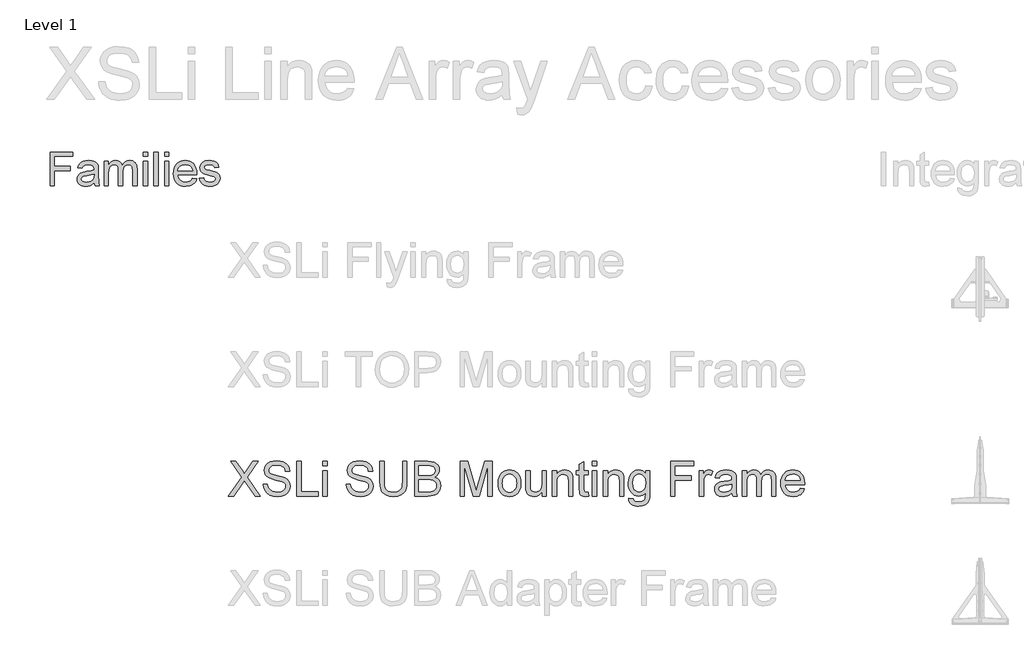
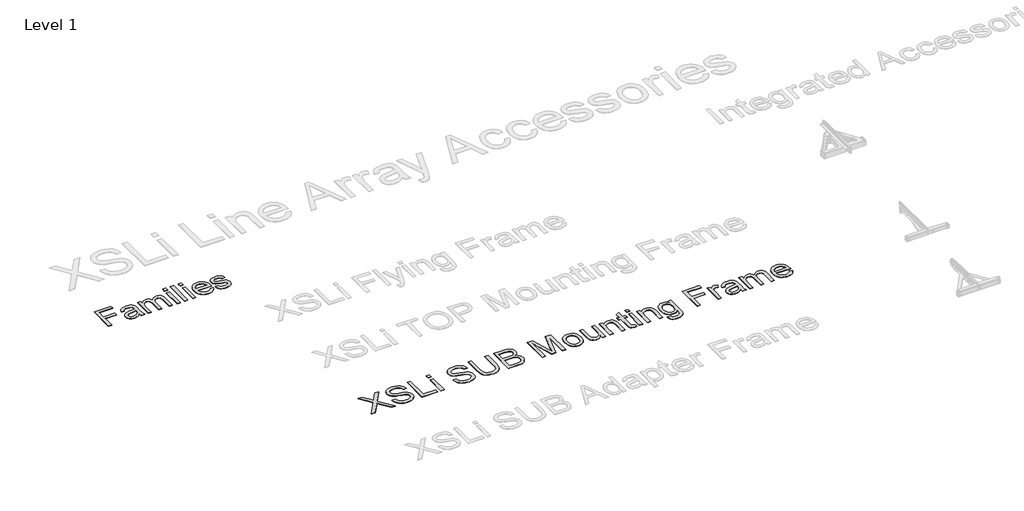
# One storey, part 29 of 52: 2 proxies.
"""IFC4 building model written with IfcOpenShell, lengths in millimetres."""

import ifcopenshell
import ifcopenshell.guid

model = None  # the IFC model being written
_history = None  # IfcOwnerHistory: only IFC2X3 demands one
_inside = {}  # id of a spatial element -> (the spatial element, [elements in it])
_under = {}  # id of a project, library or spatial element -> (it, [spatial elements below it])
_declared = {}  # id of a project -> (the project, [libraries it declares])
_typed = {}  # id of a type object -> (the type object, [elements of that type])
_made_of = {}  # id of a material, layer set ... -> (it, [elements and type objects made of it])


def new_model(schema):
    """Start an empty IFC model of exactly this schema.

    Asked for "IFC4X3", IfcOpenShell would pick the latest addendum, in which some entities
    have other attributes; the version numbers below select the first issue.
    IFC2X3 requires an IfcOwnerHistory on every rooted entity: one is made here for all.
    """
    global model, _history
    if schema == "IFC4X3":
        model = ifcopenshell.file(schema_version=(4, 3, 0, 0))
    else:
        model = ifcopenshell.file(schema=schema)
    _inside.clear()
    _under.clear()
    _declared.clear()
    _typed.clear()
    _made_of.clear()
    _history = None
    if model.schema == "IFC2X3":
        org = make("IfcOrganization", Name="unknown")
        user = make(
            "IfcPersonAndOrganization",
            ThePerson=make("IfcPerson", FamilyName="unknown"),
            TheOrganization=org,
        )
        app = make(
            "IfcApplication",
            ApplicationDeveloper=org,
            Version="unknown",
            ApplicationFullName="unknown",
            ApplicationIdentifier="unknown",
        )
        _history = make(
            "IfcOwnerHistory",
            OwningUser=user,
            OwningApplication=app,
            ChangeAction="ADDED",
            CreationDate=0,
        )
    return model


def make(cls, **values):
    """One entity of the class cls with the attributes given. An attribute that is None is left unset."""
    return model.create_entity(
        cls, **{name: value for name, value in values.items() if value is not None}
    )


def rooted(cls, **values):
    """An entity with a GlobalId (a new one), such as an element, a storey or a relation."""
    return make(cls, GlobalId=ifcopenshell.guid.new(), OwnerHistory=_history, **values)


def si_unit(unit_type, name, prefix=None):
    """IfcSIUnit, for example si_unit("LENGTHUNIT", "METRE", prefix="MILLI")."""
    return make("IfcSIUnit", UnitType=unit_type, Prefix=prefix, Name=name)


def assignment(units):
    """IfcUnitAssignment: the units of a project."""
    return None if units is None else make("IfcUnitAssignment", Units=units)


def point(xyz):
    """IfcCartesianPoint."""
    return None if xyz is None else make("IfcCartesianPoint", Coordinates=xyz)


def direction(xyz):
    """IfcDirection."""
    return None if xyz is None else make("IfcDirection", DirectionRatios=xyz)


def frame(location, z_axis=None, x_axis=None):
    """IfcAxis2Placement3D, a coordinate frame: its origin and axes. An axis left out is left unset."""
    return make(
        "IfcAxis2Placement3D",
        Location=point(location),
        Axis=direction(z_axis),
        RefDirection=direction(x_axis),
    )


def origin():
    """The frame at (0, 0, 0) with its axes left unset."""
    return frame((0.0, 0.0, 0.0))


def origin_with_axes():
    """The frame at (0, 0, 0) with the z axis (0, 0, 1) and the x axis (1, 0, 0) written out."""
    return frame((0.0, 0.0, 0.0), z_axis=(0.0, 0.0, 1.0), x_axis=(1.0, 0.0, 0.0))


def place(relative_to, where):
    """IfcLocalPlacement: puts the frame where relative to a parent placement (None: the world)."""
    return make(
        "IfcLocalPlacement", PlacementRelTo=relative_to, RelativePlacement=where
    )


def context(
    kind, dimensions, precision=None, world=None, true_north=None, identifier=None
):
    """IfcGeometricRepresentationContext, for example the 3D "Model" context."""
    return make(
        "IfcGeometricRepresentationContext",
        ContextIdentifier=identifier,
        ContextType=kind,
        CoordinateSpaceDimension=dimensions,
        Precision=precision,
        WorldCoordinateSystem=world,
        TrueNorth=true_north,
    )


def project(units=None, contexts=None):
    """IfcProject with its units and contexts."""
    return rooted(
        "IfcProject",
        Name="project",
        RepresentationContexts=contexts,
        UnitsInContext=assignment(units),
    )


def spatial(cls, under=None, at=None, **own):
    """A site, building, storey or space (cls), placed at a placement, below another one or the project."""
    s = rooted(cls, ObjectPlacement=at, **own)
    if under is not None:
        _under.setdefault(under.id(), (under, []))[1].append(s)
    return s


def polyline(points):
    """IfcPolyline through the points."""
    return make("IfcPolyline", Points=[point(p) for p in points])


def outline(outer, holes=None, kind="AREA"):
    """IfcArbitraryClosedProfileDef: a profile drawn as a closed curve; with holes, ...WithVoids."""
    if holes is None:
        return make("IfcArbitraryClosedProfileDef", ProfileType=kind, OuterCurve=outer)
    return make(
        "IfcArbitraryProfileDefWithVoids",
        ProfileType=kind,
        OuterCurve=outer,
        InnerCurves=holes,
    )


def extrude(swept, where, along, depth):
    """IfcExtrudedAreaSolid: the profile swept, set in the frame where, extruded along a direction by depth."""
    return make(
        "IfcExtrudedAreaSolid",
        SweptArea=swept,
        Position=where,
        ExtrudedDirection=direction(along),
        Depth=depth,
    )


def shape(context_of_items, identifier, shape_type, items):
    """IfcShapeRepresentation: the items that make up one representation, for example the "Body"."""
    return make(
        "IfcShapeRepresentation",
        ContextOfItems=context_of_items,
        RepresentationIdentifier=identifier,
        RepresentationType=shape_type,
        Items=items,
    )


def made_of(thing, what):
    """Note that an element or type object is made of a material, layer set ...; save() writes the relation."""
    if what is not None:
        _made_of.setdefault(what.id(), (what, []))[1].append(thing)
    return thing


def element(
    cls,
    number,
    at=None,
    inside=None,
    cuts=None,
    type_object=None,
    material=None,
    context=None,
    identifier="Body",
    shape_type=None,
    held_by="IfcProductDefinitionShape",
    body=None,
    shapes=None,
    **own,
):
    """One element of the class cls, such as IfcWall. Its Tag is "e" and its number.

    at: its placement. inside: the storey or other place that contains it. cuts: it is an
    opening in that element (IfcRelVoidsElement). A single representation is given by context,
    identifier, shape_type and body (its items); several are given by shapes. held_by: the class
    of the entity that holds the representations. save() writes the other relations.
    """
    e = rooted(cls, Tag="e%d" % number, ObjectPlacement=at, **own)
    if body is not None:
        shapes = [shape(context, identifier, shape_type, body)]
    if shapes is not None:
        e.Representation = make(held_by, Representations=shapes)
    if inside is not None:
        _inside.setdefault(inside.id(), (inside, []))[1].append(e)
    if cuts is not None:
        rooted(
            "IfcRelVoidsElement", RelatingBuildingElement=cuts, RelatedOpeningElement=e
        )
    if type_object is not None:
        _typed.setdefault(type_object.id(), (type_object, []))[1].append(e)
    return made_of(e, material)


def aggregate(whole, parts):
    """IfcRelAggregates: a whole, such as a stair, and the parts it consists of."""
    return rooted("IfcRelAggregates", RelatingObject=whole, RelatedObjects=parts)


def save(model, path):
    """Write the relations noted so far, then the file.

    IfcRelAggregates (storeys below a building ...), IfcRelContainedInSpatialStructure (elements
    in a storey), IfcRelDefinesByType, IfcRelAssociatesMaterial and IfcRelDeclares: one each for
    every whole, place, type object, material and project.
    """
    for whole, parts in _under.values():
        aggregate(whole, parts)
    for where, things in _inside.values():
        rooted(
            "IfcRelContainedInSpatialStructure",
            RelatedElements=things,
            RelatingStructure=where,
        )
    for kind, things in _typed.values():
        rooted("IfcRelDefinesByType", RelatedObjects=things, RelatingType=kind)
    for what, things in _made_of.values():
        rooted("IfcRelAssociatesMaterial", RelatedObjects=things, RelatingMaterial=what)
    for by, libraries in _declared.values():
        rooted("IfcRelDeclares", RelatingContext=by, RelatedDefinitions=libraries)
    model.write(path)


model = new_model("IFC4")

# Units and contexts
model_context = context("Model", 3, world=origin())
ifc_project = project(units=[si_unit("LENGTHUNIT", "METRE", prefix="MILLI")], contexts=[model_context])

# Site, building, storey
site = spatial("IfcSite", under=ifc_project)
building = spatial("IfcBuilding", under=site)
storey = spatial("IfcBuildingStorey", under=building, Name="Level 1", Elevation=0.0)

# Proxies
placement = place(None, origin())
element("IfcBuildingElementProxy", 1, Name="400mm Arial", ObjectType="400mm Arial", at=placement, inside=storey, context=model_context, shape_type="SweptSolid", body=[
    extrude(outline(polyline([(5943.279109, -61267.5695164), (5943.279109, -60875.8119407), (6206.4912302, -60875.8119407), (6206.4912302, -60924.7816376), (5992.2488059, -60924.7816376), (5992.2488059, -61041.0846679), (6175.8851696, -61041.0846679), (6175.8851696, -61090.0543649), (5992.2488059, -61090.0543649), (5992.2488059, -61267.5695164), (5943.279109, -61267.5695164)])), origin_with_axes(), (0.0, 0.0, 1.0), 5.0),
    extrude(outline(polyline([(6451.339715, -61230.8422437), (6427.9428164, -61250.90356), (6403.8524991, -61264.0306907), (6378.5188107, -61271.2757191), (6351.3917984, -61273.6907285), (6329.5879691, -61272.2381362), (6310.4681478, -61267.8803592), (6294.0323346, -61260.6173976), (6280.2805294, -61250.4492513), (6269.4219534, -61238.0215169), (6261.6658277, -61223.979791), (6257.0121523, -61208.3240737), (6255.4609271, -61191.0543649), (6257.8042037, -61170.7539388), (6264.8340332, -61152.3185695), (6275.6776648, -61136.5373195), (6289.4623476, -61124.1992513), (6323.7506999, -61108.1310695), (6366.120965, -61100.7664861), (6416.1905673, -61093.019327), (6451.0527832, -61083.9331528), (6451.339715, -61073.0297437), (6447.9682662, -61051.1751035), (6437.8539196, -61036.8763346), (6415.2341279, -61026.2598573), (6383.7194499, -61022.7210316), (6354.5480484, -61025.0762636), (6334.1758893, -61032.1419596), (6320.2836071, -61045.2093128), (6310.5518362, -61065.5695164), (6261.5821393, -61059.4483043), (6270.0824944, -61032.6680013), (6282.7672718, -61011.6263346), (6300.8200654, -60995.5342418), (6325.4244688, -60983.6026604), (6355.5164432, -60976.214166), (6390.0319499, -60973.7513346), (6423.1367084, -60975.9272342), (6449.3790143, -60982.4549331), (6469.1653542, -60992.2703924), (6482.902215, -61004.3095732), (6492.0123003, -61019.1941613), (6497.9183135, -61037.5458422), (6500.309412, -61080.394327), (6500.309412, -61141.3195164), (6502.7961544, -61226.3948005), (6512.5518362, -61267.5695164), (6463.5821393, -61267.5695164), (6455.7393362, -61250.5448952), (6451.339715, -61230.8422437)]), holes=[polyline([(6451.339715, -61132.9028498), (6418.4381999, -61141.0564956), (6372.3378211, -61147.9189482), (6330.2066658, -61155.8573952), (6319.2434792, -61161.2851888), (6311.1256999, -61168.769327), (6306.1043931, -61177.7359464), (6304.4306241, -61187.6111831), (6308.0770493, -61202.1729729), (6319.0163249, -61214.1045543), (6337.009341, -61222.0669123), (6361.8169878, -61224.7210316), (6388.1190711, -61221.7919359), (6411.3605484, -61213.004649), (6430.2024044, -61200.0568507), (6443.3056241, -61184.646221), (6449.1159934, -61168.769327), (6451.0527832, -61146.771221), (6451.339715, -61132.9028498)])]), origin_with_axes(), (0.0, 0.0, 1.0), 5.0),
    extrude(outline(polyline([(6567.6427453, -61267.5695164), (6567.6427453, -60979.8725467), (6616.6124423, -60979.8725467), (6616.6124423, -61027.2162967), (6631.341609, -61005.469256), (6650.279109, -60988.4326793), (6672.7793457, -60977.4216708), (6698.1967226, -60973.7513346), (6725.4313343, -60977.4934037), (6747.2620635, -60988.7196111), (6763.5693552, -61006.6887162), (6774.2336544, -61030.6594785), (6792.0832046, -61005.7621656), (6812.4434082, -60987.9783706), (6835.3142652, -60977.3080936), (6860.6957756, -60973.7513346), (6880.2997943, -60975.2308268), (6897.5067368, -60979.6693034), (6912.316603, -60987.0667643), (6924.7293931, -60997.4232096), (6934.5418635, -61010.8581942), (6941.5507709, -61027.4912731), (6945.7561154, -61047.3224461), (6947.1578968, -61070.3517134), (6947.1578968, -61267.5695164), (6898.1881999, -61267.5695164), (6898.1881999, -61091.3933801), (6893.6451128, -61050.505596), (6887.2608798, -61039.2315666), (6877.1943552, -61030.3725467), (6864.2465569, -61024.6339104), (6849.2185029, -61022.7210316), (6822.6892652, -61027.6227835), (6801.0617794, -61042.3280392), (6792.6720126, -61053.6080463), (6786.679322, -61067.84106), (6781.8851696, -61105.1661073), (6781.8851696, -61267.5695164), (6732.9154726, -61267.5695164), (6732.9154726, -61085.9416755), (6730.0820209, -61058.2527551), (6721.5816658, -61038.5022816), (6706.6253448, -61026.6663441), (6684.4239953, -61022.7210316), (6665.5582283, -61025.3512399), (6648.1749423, -61033.2418649), (6633.8283514, -61046.2016187), (6624.0726696, -61064.0392134), (6618.4774991, -61088.7870827), (6616.6124423, -61122.4776604), (6616.6124423, -61267.5695164), (6567.6427453, -61267.5695164)])), origin_with_axes(), (0.0, 0.0, 1.0), 5.0),
    extrude(outline(polyline([(7020.6124423, -60924.7816376), (7020.6124423, -60875.8119407), (7069.5821393, -60875.8119407), (7069.5821393, -60924.7816376), (7020.6124423, -60924.7816376)])), origin_with_axes(), (0.0, 0.0, 1.0), 5.0),
    extrude(outline(polyline([(7020.6124423, -61267.5695164), (7020.6124423, -60979.8725467), (7069.5821393, -60979.8725467), (7069.5821393, -61267.5695164), (7020.6124423, -61267.5695164)])), origin_with_axes(), (0.0, 0.0, 1.0), 5.0),
    extrude(outline(polyline([(7143.0366847, -61267.5695164), (7143.0366847, -60875.8119407), (7192.0063817, -60875.8119407), (7192.0063817, -61267.5695164), (7143.0366847, -61267.5695164)])), origin_with_axes(), (0.0, 0.0, 1.0), 5.0),
    extrude(outline(polyline([(7265.4609271, -60924.7816376), (7265.4609271, -60875.8119407), (7314.4306241, -60875.8119407), (7314.4306241, -60924.7816376), (7265.4609271, -60924.7816376)])), origin_with_axes(), (0.0, 0.0, 1.0), 5.0),
    extrude(outline(polyline([(7265.4609271, -61267.5695164), (7265.4609271, -60979.8725467), (7314.4306241, -60979.8725467), (7314.4306241, -61267.5695164), (7265.4609271, -61267.5695164)])), origin_with_axes(), (0.0, 0.0, 1.0), 5.0),
    extrude(outline(polyline([(7589.3113059, -61181.8725467), (7637.3245635, -61187.9937589), (7629.9629691, -61207.2241684), (7620.024966, -61224.1710789), (7607.5105543, -61238.8344904), (7592.419734, -61251.2144028), (7574.9079264, -61261.0477953), (7555.1305531, -61268.0716471), (7508.779109, -61273.6907285), (7478.394225, -61271.2667525), (7451.3210124, -61263.9948242), (7427.5594712, -61251.8749437), (7407.1096014, -61234.9071111), (7390.6648216, -61213.5635683), (7378.9185503, -61188.3165571), (7371.8707875, -61159.1660777), (7369.5215332, -61126.1121301), (7371.8946985, -61091.937355), (7379.0141942, -61061.8154918), (7390.8800204, -61035.7465406), (7407.4921771, -61013.7305013), (7427.8882472, -60996.2396159), (7451.1058135, -60983.7461263), (7477.144876, -60976.2500325), (7506.0054347, -60973.7513346), (7533.9364539, -60976.2440548), (7559.1954205, -60983.7222153), (7581.7823346, -60996.1858161), (7601.6971961, -61013.6348573), (7617.9536769, -61035.6030747), (7629.5654489, -61061.6242039), (7636.5325121, -61091.6982451), (7638.8548665, -61125.8251982), (7638.5679347, -61139.0240619), (7418.4912302, -61139.0240619), (7421.3276708, -61158.5653142), (7426.9676743, -61175.6796017), (7435.4112408, -61190.3669241), (7446.6583703, -61202.6272816), (7475.0765758, -61219.1975941), (7509.7355484, -61224.7210316), (7535.7985218, -61222.1625562), (7557.7488059, -61214.4871301), (7575.5864006, -61201.2165335), (7589.3113059, -61181.8725467)]), holes=[polyline([(7418.4912302, -61090.0543649), (7589.8851696, -61090.0543649), (7583.2618268, -61064.1826793), (7570.278162, -61045.675577), (7556.923877, -61035.6329634), (7541.7284461, -61028.4596679), (7505.8141468, -61022.7210316), (7472.8050323, -61027.2999852), (7445.5106431, -61041.036846), (7426.5372766, -61062.4491329), (7418.4912302, -61090.0543649)])]), origin_with_axes(), (0.0, 0.0, 1.0), 5.0),
    extrude(outline(polyline([(7669.4609271, -61181.8725467), (7718.4306241, -61175.7513346), (7726.1538722, -61196.6973573), (7741.0982378, -61212.0960316), (7763.3593646, -61221.5647816), (7793.0328968, -61224.7210316), (7822.3477643, -61221.8278024), (7842.9590332, -61213.1481149), (7855.1536355, -61200.5709369), (7859.2185029, -61185.9852361), (7855.1297245, -61173.503702), (7842.8633893, -61163.9871301), (7792.4590332, -61150.0231149), (7718.7175559, -61126.0643081), (7700.0550323, -61114.0251272), (7686.5333703, -61098.0884558), (7678.319947, -61079.2705107), (7675.5821393, -61058.5875089), (7677.7819499, -61039.6141424), (7684.3813817, -61022.099346), (7694.7826601, -61006.7365382), (7708.3880105, -60994.2191376), (7739.5201128, -60979.7290808), (7781.6512681, -60973.7513346), (7813.5246109, -60976.1543886), (7841.2374423, -60983.3635505), (7863.5224802, -60994.6734464), (7879.1124423, -61009.378702), (7889.4419878, -61028.5672674), (7895.9457756, -61053.3270922), (7846.9760787, -61059.4483043), (7840.7950891, -61044.0376746), (7828.5646203, -61032.4288914), (7810.1651175, -61025.1479965), (7785.4770256, -61022.7210316), (7757.3577075, -61025.0403971), (7738.6114953, -61031.9984937), (7728.066751, -61042.0411073), (7724.5518362, -61053.614024), (7730.3861165, -61067.864971), (7748.654109, -61078.6727361), (7790.8330862, -61089.0979255), (7862.7095067, -61112.1481149), (7881.6948287, -61123.1710789), (7896.0892415, -61138.2589104), (7905.1634603, -61157.4594312), (7908.1881999, -61180.8204634), (7904.6374186, -61204.9705581), (7893.9850749, -61227.6859937), (7876.6376554, -61247.1854018), (7853.0016468, -61261.6874142), (7824.4519309, -61270.6899), (7792.3633893, -61273.6907285), (7766.0075062, -61272.244114), (7742.9872056, -61267.9042702), (7723.3024873, -61260.6711973), (7706.9533514, -61250.5448952), (7693.5990664, -61237.5731859), (7682.8989006, -61221.8038914), (7674.8528542, -61203.2370117), (7669.4609271, -61181.8725467)])), origin_with_axes(), (0.0, 0.0, 1.0), 5.0),
])
element("IfcBuildingElementProxy", 2, Name="400mm Arial", ObjectType="400mm Arial", at=placement, inside=storey, context=model_context, shape_type="SweptSolid", body=[
    extrude(outline(polyline([(8004.9788586, -64856.6859046), (8159.7836021, -64637.722541), (8030.0929361, -64454.860664), (8090.2293796, -64454.860664), (8163.3152693, -64557.8676226), (8187.9388375, -64597.9912855), (8216.7807859, -64556.9847058), (8289.0818607, -64454.860664), (8350.2974247, -64454.860664), (8220.5086568, -64638.4092541), (8375.4115022, -64856.6859046), (8315.1769569, -64856.6859046), (8211.8756926, -64711.2008382), (8190.3913841, -64681.0835655), (8166.9450383, -64714.1438942), (8066.1944226, -64856.6859046), (8004.9788586, -64856.6859046)])), origin_with_axes(), (0.0, 0.0, 1.0), 5.0),
    extrude(outline(polyline([(8406.8040992, -64718.5584781), (8457.0322542, -64718.5584781), (8462.7957388, -64746.4316706), (8473.219062, -64768.8356841), (8489.4794462, -64786.6166472), (8512.7541138, -64800.6206885), (8541.2036547, -64809.7073738), (8572.9886591, -64812.7362689), (8600.9722162, -64810.4431378), (8625.4731571, -64803.5637445), (8645.3265221, -64792.6744374), (8659.3673516, -64778.3515651), (8667.7182729, -64761.9072399), (8670.5019133, -64744.6535743), (8668.4172487, -64727.8413671), (8662.1632547, -64713.3100283), (8649.4590632, -64700.9124051), (8628.0238056, -64690.5013446), (8554.8888649, -64671.3224299), (8506.8802646, -64658.6305011), (8476.162118, -64646.5517089), (8451.158405, -64629.6536626), (8433.4387556, -64609.1748982), (8422.8805423, -64585.5568741), (8419.3611379, -64559.2410487), (8423.7144082, -64529.8227518), (8436.774219, -64502.3910177), (8458.1972139, -64479.1408756), (8487.6400362, -64462.2673548), (8522.9812332, -64452.0034471), (8562.0993521, -64448.5821446), (8604.4793579, -64452.1628627), (8641.561863, -64462.9050169), (8672.0224922, -64480.5878782), (8694.5368703, -64504.9907172), (8708.7861663, -64534.592955), (8714.451549, -64567.8740129), (8664.2233939, -64567.8740129), (8655.0018186, -64537.903893), (8646.6386345, -64526.04583), (8635.773853, -64516.2724317), (8605.7301567, -64503.1758327), (8564.0613894, -64498.8102996), (8521.4116034, -64503.1267817), (8505.1082996, -64508.5223843), (8492.152722, -64516.076228), (8475.2301503, -64535.1325153), (8469.589293, -64557.7695207), (8473.586944, -64577.0710628), (8485.5798971, -64592.595683), (8513.9313362, -64606.4770969), (8567.5930565, -64620.6528165), (8622.9715595, -64634.1172975), (8656.4733465, -64645.8649959), (8685.1068285, -64664.0874173), (8705.0828208, -64686.57727), (8716.8182565, -64713.0892991), (8720.7300684, -64743.37825), (8716.2296453, -64774.3416513), (8702.7283761, -64803.4656426), (8680.7780837, -64828.5306692), (8650.9305912, -64847.3171764), (8615.0375712, -64859.0526121), (8574.9506964, -64862.9644239), (8525.7403482, -64858.7460437), (8485.2365405, -64846.0909031), (8452.9732895, -64824.9499511), (8428.4846114, -64795.2741368), (8412.7637875, -64759.1235994), (8406.8040992, -64718.5584781)])), origin_with_axes(), (0.0, 0.0, 1.0), 5.0),
    extrude(outline(polyline([(8796.072301, -64856.6859046), (8796.072301, -64454.860664), (8846.3004561, -64454.860664), (8846.3004561, -64806.4577495), (9047.2130764, -64806.4577495), (9047.2130764, -64856.6859046), (8796.072301, -64856.6859046)])), origin_with_axes(), (0.0, 0.0, 1.0), 5.0),
    extrude(outline(polyline([(9097.4412314, -64856.6859046), (9097.4412314, -64561.5954935), (9147.6693865, -64561.5954935), (9147.6693865, -64856.6859046), (9097.4412314, -64856.6859046)])), origin_with_axes(), (0.0, 0.0, 1.0), 5.0),
    extrude(outline(polyline([(9097.4412314, -64505.088819), (9097.4412314, -64454.860664), (9147.6693865, -64454.860664), (9147.6693865, -64505.088819), (9097.4412314, -64505.088819)])), origin_with_axes(), (0.0, 0.0, 1.0), 5.0),
    extrude(outline(polyline([(9367.417565, -64718.5584781), (9417.64572, -64718.5584781), (9423.4092046, -64746.4316706), (9433.8325278, -64768.8356841), (9450.092912, -64786.6166472), (9473.3675796, -64800.6206885), (9501.8171205, -64809.7073738), (9533.6021249, -64812.7362689), (9561.585682, -64810.4431378), (9586.0866229, -64803.5637445), (9605.9399879, -64792.6744374), (9619.9808174, -64778.3515651), (9628.3317387, -64761.9072399), (9631.1153791, -64744.6535743), (9629.0307145, -64727.8413671), (9622.7767205, -64713.3100283), (9610.072529, -64700.9124051), (9588.6372714, -64690.5013446), (9515.5023308, -64671.3224299), (9467.4937304, -64658.6305011), (9436.7755838, -64646.5517089), (9411.7718708, -64629.6536626), (9394.0522214, -64609.1748982), (9383.4940081, -64585.5568741), (9379.9746037, -64559.2410487), (9384.327874, -64529.8227518), (9397.3876848, -64502.3910177), (9418.8106797, -64479.1408756), (9448.253502, -64462.2673548), (9483.594699, -64452.0034471), (9522.7128179, -64448.5821446), (9565.0928237, -64452.1628627), (9602.1753288, -64462.9050169), (9632.635958, -64480.5878782), (9655.1503361, -64504.9907172), (9669.3996321, -64534.592955), (9675.0650148, -64567.8740129), (9624.8368597, -64567.8740129), (9615.6152844, -64537.903893), (9607.2521003, -64526.04583), (9596.3873188, -64516.2724317), (9566.3436225, -64503.1758327), (9524.6748552, -64498.8102996), (9482.0250692, -64503.1267817), (9465.7217654, -64508.5223843), (9452.7661878, -64516.076228), (9435.8436161, -64535.1325153), (9430.2027588, -64557.7695207), (9434.2004098, -64577.0710628), (9446.1933629, -64592.595683), (9474.544802, -64606.4770969), (9528.2065223, -64620.6528165), (9583.5850253, -64634.1172975), (9617.0868124, -64645.8649959), (9645.7202943, -64664.0874173), (9665.6962866, -64686.57727), (9677.4317223, -64713.0892991), (9681.3435342, -64743.37825), (9676.8431111, -64774.3416513), (9663.3418419, -64803.4656426), (9641.3915495, -64828.5306692), (9611.544057, -64847.3171764), (9575.651037, -64859.0526121), (9535.5641622, -64862.9644239), (9486.353814, -64858.7460437), (9445.8500063, -64846.0909031), (9413.5867554, -64824.9499511), (9389.0980772, -64795.2741368), (9373.3772533, -64759.1235994), (9367.417565, -64718.5584781)])), origin_with_axes(), (0.0, 0.0, 1.0), 5.0),
    extrude(outline(polyline([(10020.3835809, -64454.860664), (10070.611736, -64454.860664), (10070.611736, -64686.6753719), (10067.2026962, -64740.9624916), (10056.9755767, -64782.766149), (10048.7902023, -64799.7193776), (10037.8702384, -64815.0171372), (10007.8265422, -64840.6462496), (9988.6844157, -64850.4104509), (9966.7709115, -64857.3848803), (9914.6297701, -64862.9644239), (9863.6290628, -64858.1083816), (9822.855475, -64843.5402546), (9806.3007852, -64832.7398524), (9792.2967439, -64819.762815), (9780.8433511, -64804.6091425), (9771.9406069, -64787.2788348), (9760.4994768, -64743.7093438), (9756.6857668, -64686.6753719), (9756.6857668, -64454.860664), (9806.9139219, -64454.860664), (9806.9139219, -64684.9095383), (9809.390994, -64730.0486591), (9816.8222103, -64761.4780442), (9830.2866913, -64783.2443956), (9850.8635576, -64799.3944152), (9877.6944177, -64809.4008054), (9909.9208805, -64812.7362689), (9937.6040007, -64811.0869313), (9961.0074269, -64806.1389184), (9980.1311593, -64797.8922304), (9994.9751978, -64786.3468671), (10006.0913654, -64770.1110084), (10014.0314851, -64747.792834), (10018.795557, -64719.392344), (10020.3835809, -64684.9095383), (10020.3835809, -64454.860664)])), origin_with_axes(), (0.0, 0.0, 1.0), 5.0),
    extrude(outline(polyline([(10158.5110074, -64856.6859046), (10158.5110074, -64454.860664), (10311.844223, -64454.860664), (10354.0157624, -64457.8159827), (10386.9412009, -64466.6819387), (10412.1779058, -64481.6792614), (10431.2832441, -64503.0286799), (10443.3129853, -64528.1427574), (10447.3228991, -64554.4340573), (10443.9506474, -64578.6284299), (10433.8338926, -64601.3757999), (10416.8990581, -64621.2782158), (10393.0725675, -64636.9377261), (10421.5343712, -64651.8001587), (10442.5649586, -64674.4126387), (10455.551193, -64703.2791126), (10459.8799378, -64736.9035269), (10456.9246191, -64764.9238722), (10448.0586631, -64790.9086038), (10434.827174, -64813.006049), (10418.7752562, -64829.364535), (10399.118095, -64841.2103353), (10375.0708752, -64849.769723), (10345.8487821, -64854.9568592), (10310.6670006, -64856.6859046), (10158.5110074, -64856.6859046)]), holes=[polyline([(10208.7391625, -64806.4577495), (10311.7461211, -64806.4577495), (10349.02483, -64804.4957122), (10380.5645797, -64793.5573542), (10392.1405998, -64784.1273124), (10401.460277, -64771.2391798), (10407.6039063, -64755.469305), (10409.6517828, -64737.3940363), (10407.2482871, -64716.4002371), (10400.0378, -64698.3494938), (10387.443973, -64684.235088), (10368.8904577, -64675.0503008), (10342.6114205, -64670.0103175), (10306.8410278, -64668.330323), (10208.7391625, -64668.330323), (10208.7391625, -64806.4577495)]), polyline([(10208.7391625, -64618.102168), (10300.4644066, -64618.102168), (10354.0280251, -64613.7856859), (10372.7777441, -64606.3422068), (10386.2544879, -64595.1953824), (10394.38468, -64580.5168908), (10397.094744, -64562.4784103), (10394.568621, -64544.9672273), (10386.9902519, -64529.7123872), (10374.7029932, -64517.8052733), (10358.0502016, -64510.3372688), (10332.4946656, -64506.4009315), (10293.4991742, -64505.088819), (10208.7391625, -64505.088819), (10208.7391625, -64618.102168)])]), origin_with_axes(), (0.0, 0.0, 1.0), 5.0),
    extrude(outline(polyline([(10685.9066357, -64856.6859046), (10685.9066357, -64454.860664), (10772.0400735, -64454.860664), (10854.4456404, -64738.0807493), (10871.1229575, -64797.2361741), (10889.0755989, -64733.175656), (10969.911536, -64454.860664), (11056.3392794, -64454.860664), (11056.3392794, -64856.6859046), (11006.1111243, -64856.6859046), (11006.1111243, -64505.088819), (10905.1643048, -64856.6859046), (10837.1797121, -64856.6859046), (10736.1347907, -64505.088819), (10736.1347907, -64856.6859046), (10685.9066357, -64856.6859046)])), origin_with_axes(), (0.0, 0.0, 1.0), 5.0),
    extrude(outline(polyline([(11125.4029926, -64709.140699), (11128.119188, -64670.9238911), (11136.2677742, -64637.9923212), (11149.8487512, -64610.3459892), (11168.8621189, -64587.9848953), (11188.0042454, -64573.6926798), (11209.1329347, -64563.4839544), (11232.2481867, -64557.3587192), (11257.3500015, -64555.3169741), (11285.0607128, -64557.8032433), (11310.1165424, -64565.2620507), (11332.5174902, -64577.6933965), (11352.2635563, -64595.0972805), (11368.3798533, -64616.8850917), (11379.8914941, -64642.4682188), (11386.7984786, -64671.8466618), (11389.1008067, -64705.0204207), (11385.0295793, -64755.7636105), (11372.8158971, -64794.39122), (11352.8153793, -64823.3190076), (11325.3836452, -64844.9627316), (11292.8015631, -64858.4640009), (11257.3500015, -64862.9644239), (11229.23462, -64860.4873518), (11203.9457985, -64853.0561355), (11181.4835371, -64840.670775), (11161.8478356, -64823.3312703), (11145.9032168, -64801.331927), (11134.5142033, -64774.9670507), (11127.6807953, -64744.2366414), (11125.4029926, -64709.140699)]), holes=[polyline([(11175.6311477, -64709.0425972), (11177.0842815, -64733.4055823), (11181.4436832, -64754.500549), (11188.7093526, -64772.3274974), (11198.8812897, -64786.8864273), (11211.2543875, -64798.195733), (11225.1235387, -64806.2738085), (11240.4887434, -64811.1206538), (11257.3500015, -64812.7362689), (11274.1254205, -64811.1114567), (11289.4293115, -64806.2370203), (11303.2616745, -64798.1129596), (11315.6225096, -64786.7392745), (11325.7944467, -64772.0362575), (11333.0601161, -64753.9242006), (11337.4195178, -64732.4031039), (11338.8726516, -64707.4729673), (11337.4103207, -64683.8825344), (11333.0233279, -64663.3393906), (11325.7116733, -64645.8435361), (11315.4753568, -64631.3949707), (11303.0685365, -64620.085665), (11289.2453705, -64612.0075896), (11274.0058588, -64607.1607443), (11257.3500015, -64605.5451292), (11240.4887434, -64607.1546129), (11225.1235387, -64611.9830641), (11211.2543875, -64620.0304827), (11198.8812897, -64631.2968688), (11188.7093526, -64645.8128792), (11181.4436832, -64663.6091708), (11177.0842815, -64684.6857434), (11175.6311477, -64709.0425972)])]), origin_with_axes(), (0.0, 0.0, 1.0), 5.0),
    extrude(outline(polyline([(11633.9630627, -64856.6859046), (11633.9630627, -64805.9672402), (11615.7896921, -64830.9035081), (11594.6242147, -64848.715128), (11570.4666303, -64859.4021), (11543.3169391, -64862.9644239), (11518.8527864, -64860.4628264), (11496.0808909, -64852.9580337), (11476.9755526, -64841.6763192), (11463.5110716, -64827.8439561), (11454.4489118, -64811.0440117), (11448.5505371, -64790.8595529), (11445.6074812, -64744.163065), (11445.6074812, -64561.5954935), (11495.8356363, -64561.5954935), (11495.8356363, -64720.5205154), (11498.8767941, -64771.7296891), (11506.1976458, -64788.8116764), (11518.7424218, -64801.7979109), (11535.6772563, -64810.0016794), (11556.1682835, -64812.7362689), (11577.836533, -64809.9403657), (11598.1068309, -64801.5526562), (11614.8209362, -64788.3456926), (11625.8206079, -64771.092027), (11631.927449, -64747.4617402), (11633.9630627, -64715.1249128), (11633.9630627, -64561.5954935), (11684.1912178, -64561.5954935), (11684.1912178, -64856.6859046), (11633.9630627, -64856.6859046)])), origin_with_axes(), (0.0, 0.0, 1.0), 5.0),
    extrude(outline(polyline([(11753.254931, -64856.6859046), (11753.254931, -64561.5954935), (11803.4830861, -64561.5954935), (11803.4830861, -64602.798277), (11820.9329554, -64582.025207), (11841.8899664, -64567.1872998), (11866.3541191, -64558.2845555), (11894.3254134, -64555.3169741), (11919.0838717, -64557.7082071), (11941.7576653, -64564.881906), (11960.6667999, -64575.9428913), (11974.1312809, -64589.9959835), (11983.2670171, -64607.0043944), (11989.1899173, -64626.9313358), (11991.8386676, -64675.4917592), (11991.8386676, -64856.6859046), (11941.6105125, -64856.6859046), (11941.6105125, -64682.2607879), (11940.16351, -64656.2883191), (11935.8225025, -64637.8206429), (11927.8149377, -64624.5891538), (11915.3682636, -64614.3252461), (11899.4144477, -64607.7401584), (11880.8854579, -64605.5451292), (11851.467161, -64610.4747479), (11826.3898717, -64625.2636041), (11816.368153, -64637.3362649), (11809.2097825, -64653.8357724), (11804.9147602, -64674.7621266), (11803.4830861, -64700.1153274), (11803.4830861, -64856.6859046), (11753.254931, -64856.6859046)])), origin_with_axes(), (0.0, 0.0, 1.0), 5.0),
    extrude(outline(polyline([(12167.6372104, -64814.796408), (12173.9157298, -64858.1574325), (12136.3427153, -64862.9644239), (12112.2341819, -64860.8797593), (12094.2570151, -64854.6257654), (12081.5528235, -64844.9872571), (12073.2632159, -64832.7490494), (12068.7014791, -64811.7307247), (12067.1809002, -64775.7518656), (12067.1809002, -64611.8236486), (12029.5097839, -64611.8236486), (12029.5097839, -64561.5954935), (12067.1809002, -64561.5954935), (12067.1809002, -64489.8830299), (12117.4090553, -64460.3543684), (12117.4090553, -64561.5954935), (12167.6372104, -64561.5954935), (12167.6372104, -64611.8236486), (12117.4090553, -64611.8236486), (12117.4090553, -64774.2803376), (12120.0578057, -64800.1792301), (12128.6417189, -64809.3517545), (12145.7604944, -64812.7362689), (12167.6372104, -64814.796408)])), origin_with_axes(), (0.0, 0.0, 1.0), 5.0),
    extrude(outline(polyline([(12217.8653655, -64856.6859046), (12217.8653655, -64561.5954935), (12268.0935205, -64561.5954935), (12268.0935205, -64856.6859046), (12217.8653655, -64856.6859046)])), origin_with_axes(), (0.0, 0.0, 1.0), 5.0),
    extrude(outline(polyline([(12217.8653655, -64505.088819), (12217.8653655, -64454.860664), (12268.0935205, -64454.860664), (12268.0935205, -64505.088819), (12217.8653655, -64505.088819)])), origin_with_axes(), (0.0, 0.0, 1.0), 5.0),
    extrude(outline(polyline([(12343.4357531, -64856.6859046), (12343.4357531, -64561.5954935), (12393.6639082, -64561.5954935), (12393.6639082, -64602.798277), (12411.1137775, -64582.025207), (12432.0707885, -64567.1872998), (12456.5349412, -64558.2845555), (12484.5062356, -64555.3169741), (12509.2646938, -64557.7082071), (12531.9384875, -64564.881906), (12550.847622, -64575.9428913), (12564.312103, -64589.9959835), (12573.4478393, -64607.0043944), (12579.3707394, -64626.9313358), (12582.0194897, -64675.4917592), (12582.0194897, -64856.6859046), (12531.7913347, -64856.6859046), (12531.7913347, -64682.2607879), (12530.3443322, -64656.2883191), (12526.0033246, -64637.8206429), (12517.9957599, -64624.5891538), (12505.5490857, -64614.3252461), (12489.5952698, -64607.7401584), (12471.06628, -64605.5451292), (12441.6479831, -64610.4747479), (12416.5706938, -64625.2636041), (12406.5489751, -64637.3362649), (12399.3906046, -64653.8357724), (12395.0955823, -64674.7621266), (12393.6639082, -64700.1153274), (12393.6639082, -64856.6859046), (12343.4357531, -64856.6859046)])), origin_with_axes(), (0.0, 0.0, 1.0), 5.0),
    extrude(outline(polyline([(12638.5261642, -64881.7999821), (12688.7543193, -64888.0785015), (12694.2970747, -64903.7747999), (12705.0392289, -64914.5660051), (12726.1556555, -64922.9537146), (12753.795856, -64925.7496178), (12783.2754666, -64922.5858326), (12805.2012335, -64913.0944772), (12820.4070226, -64897.888688), (12829.7266998, -64877.5816019), (12833.1602651, -64819.0147883), (12816.4461598, -64835.4959016), (12797.7945427, -64847.2681255), (12777.2054137, -64854.3314598), (12754.6787728, -64856.6859046), (12727.1397398, -64853.9451837), (12702.8932506, -64845.7230211), (12681.9393053, -64832.0194168), (12664.2779039, -64812.8343707), (12650.2646655, -64789.8172206), (12640.2552096, -64764.6173039), (12634.249536, -64737.2346207), (12632.2476448, -64707.669171), (12635.8406256, -64667.1163124), (12646.6195681, -64629.8253409), (12664.2043275, -64598.2242775), (12688.214759, -64574.7411435), (12717.8292596, -64560.1730164), (12752.2262262, -64555.3169741), (12775.7154916, -64558.0638263), (12797.0342532, -64566.304383), (12816.182511, -64580.0386442), (12833.1602651, -64599.2666098), (12833.1602651, -64561.5954935), (12883.3884202, -64561.5954935), (12883.3884202, -64816.3660379), (12879.9548549, -64875.1903689), (12869.654159, -64913.928343), (12851.9099841, -64939.618769), (12826.1459817, -64959.3004557), (12792.9262376, -64971.8084436), (12752.8148374, -64975.9777729), (12728.2065976, -64974.5093106), (12706.0815613, -64970.1039237), (12686.4397284, -64962.7616122), (12669.281099, -64952.4823761), (12655.4211448, -64939.2539527), (12645.6753376, -64923.0640792), (12640.0436774, -64903.9127557), (12638.5261642, -64881.7999821)]), holes=[polyline([(12682.4757999, -64704.2356058), (12687.8346143, -64750.3066943), (12694.5331323, -64767.9435703), (12703.9110575, -64781.9813341), (12715.3123337, -64792.6897658), (12728.0809046, -64800.3386456), (12742.2167702, -64804.9279735), (12757.7199306, -64806.4577495), (12773.0698069, -64804.9371706), (12787.1382275, -64800.3754338), (12799.9251925, -64792.7725393), (12811.4307019, -64782.1284869), (12820.9373858, -64768.2286788), (12827.7278743, -64750.8585173), (12833.1602651, -64705.7071337), (12827.5684588, -64662.1621682), (12820.5787009, -64644.9606193), (12810.7930398, -64630.8063595), (12799.0392101, -64619.7545712), (12786.1449461, -64611.8604368), (12772.110248, -64607.1239561), (12756.9351157, -64605.5451292), (12742.0144351, -64607.0994306), (12728.2525828, -64611.7623349), (12704.2053631, -64630.4139521), (12694.6986792, -64644.353614), (12687.9081907, -64661.3037769), (12682.4757999, -64704.2356058)])]), origin_with_axes(), (0.0, 0.0, 1.0), 5.0),
    extrude(outline(polyline([(13121.9721568, -64856.6859046), (13121.9721568, -64454.860664), (13391.9484903, -64454.860664), (13391.9484903, -64505.088819), (13172.2003119, -64505.088819), (13172.2003119, -64624.3806873), (13360.5558934, -64624.3806873), (13360.5558934, -64674.6088424), (13172.2003119, -64674.6088424), (13172.2003119, -64856.6859046), (13121.9721568, -64856.6859046)])), origin_with_axes(), (0.0, 0.0, 1.0), 5.0),
    extrude(outline(polyline([(13454.7336842, -64856.6859046), (13454.7336842, -64561.5954935), (13498.6833199, -64561.5954935), (13498.6833199, -64605.2508236), (13514.9191786, -64579.9405423), (13529.8797131, -64565.0290588), (13544.8892985, -64557.7449953), (13561.27231, -64555.3169741), (13586.2882856, -64559.1919978), (13611.6966688, -64570.8170688), (13594.9212498, -64615.845825), (13577.262914, -64608.1203031), (13559.6045783, -64605.5451292), (13544.6072556, -64608.0222013), (13531.2040882, -64615.4534176), (13520.3760948, -64627.2746924), (13513.1042941, -64642.9219399), (13506.997453, -64670.9790734), (13504.9618392, -64701.5868554), (13504.9618392, -64856.6859046), (13454.7336842, -64856.6859046)])), origin_with_axes(), (0.0, 0.0, 1.0), 5.0),
    extrude(outline(polyline([(13831.4448472, -64819.0147883), (13807.4466784, -64839.5916545), (13782.7372711, -64853.0561355), (13756.7525395, -64860.4873518), (13728.9283979, -64862.9644239), (13706.5642383, -64861.4745019), (13686.9530623, -64857.0047356), (13670.0948698, -64849.5551252), (13655.989661, -64839.1256707), (13644.8520336, -64826.3785595), (13636.8965855, -64811.9759794), (13632.1233166, -64795.9179303), (13630.5322269, -64778.2044123), (13632.9357226, -64757.3822913), (13640.1462097, -64738.4731568), (13651.2685087, -64722.286349), (13665.4074401, -64709.6312084), (13682.0234435, -64700.0662765), (13700.5769588, -64693.150095), (13744.0360852, -64685.5962513), (13795.3924117, -64677.6500002), (13831.1505416, -64668.330323), (13831.4448472, -64657.1467104), (13827.9867565, -64634.7304341), (13817.6124842, -64620.0642053), (13794.4113931, -64609.1748982), (13762.0868284, -64605.5451292), (13732.1657595, -64607.9608876), (13711.2700621, -64615.2081629), (13697.0207662, -64628.6113303), (13687.0389014, -64649.4947649), (13636.8107463, -64643.2162455), (13645.5295496, -64615.7477232), (13658.5403095, -64594.1653128), (13677.0570366, -64577.6596739), (13702.2937415, -64565.4214662), (13733.1590409, -64557.8430971), (13768.5615515, -64555.3169741), (13802.5170597, -64557.5487915), (13829.433759, -64564.2442439), (13849.7285824, -64574.3119478), (13863.8184628, -64586.6605201), (13873.1626655, -64601.9276229), (13879.2204557, -64620.7509183), (13881.6730023, -64664.700554), (13881.6730023, -64727.1914423), (13884.2236508, -64814.4530515), (13894.2300411, -64856.6859046), (13844.001886, -64856.6859046), (13835.957533, -64839.2237725), (13831.4448472, -64819.0147883)]), holes=[polyline([(13831.4448472, -64718.5584781), (13797.6978055, -64726.9216621), (13750.4127064, -64733.960471), (13707.1988347, -64742.1029258), (13695.9539084, -64747.6702067), (13687.6275126, -64755.3466776), (13682.4771647, -64764.5437275), (13680.760382, -64774.6727451), (13684.5005156, -64789.6087541), (13695.7209165, -64801.8469618), (13714.1763299, -64810.0139421), (13739.6215012, -64812.7362689), (13766.5995142, -64809.7318992), (13790.4382675, -64800.7187904), (13809.764335, -64787.4382503), (13823.2042905, -64771.6315873), (13829.1639789, -64755.3466776), (13831.1505416, -64732.7832486), (13831.4448472, -64718.5584781)])]), origin_with_axes(), (0.0, 0.0, 1.0), 5.0),
    extrude(outline(polyline([(13950.7367155, -64856.6859046), (13950.7367155, -64561.5954935), (14000.9648706, -64561.5954935), (14000.9648706, -64610.1559169), (14016.0725579, -64587.8500052), (14035.4967272, -64570.3756104), (14058.5751911, -64559.0816332), (14084.6457618, -64555.3169741), (14112.5802679, -64559.1552096), (14134.9720187, -64570.669916), (14151.6983868, -64589.100804), (14162.6367448, -64613.687584), (14180.9450054, -64588.1504422), (14201.82844, -64569.9096266), (14225.2870485, -64558.9651372), (14251.3208311, -64555.3169741), (14271.4286478, -64556.8344873), (14289.0777865, -64561.387027), (14304.2682472, -64568.9745932), (14317.0000299, -64579.5971858), (14327.0646682, -64593.3774322), (14334.2536955, -64610.4379597), (14338.5671119, -64630.7787684), (14340.0049174, -64654.3998581), (14340.0049174, -64856.6859046), (14289.7767623, -64856.6859046), (14289.7767623, -64675.9822685), (14288.6118026, -64650.9295047), (14285.1169237, -64634.0437211), (14278.5686242, -64622.4799637), (14268.2434028, -64613.3932784), (14254.9628628, -64607.5071665), (14239.5486072, -64605.5451292), (14212.3376023, -64610.5728498), (14190.154318, -64625.6560116), (14181.548945, -64637.2259003), (14175.40225, -64651.8246842), (14170.484894, -64690.1089371), (14170.484894, -64856.6859046), (14120.2567389, -64856.6859046), (14120.2567389, -64670.3904622), (14117.3504712, -64641.9899722), (14108.6316679, -64621.731937), (14093.2909887, -64609.5918311), (14070.5190932, -64605.5451292), (14051.1685002, -64608.2429305), (14033.3384862, -64616.3363344), (14018.6232064, -64629.6291371), (14008.6168161, -64647.925135), (14002.877857, -64673.3089927), (14000.9648706, -64707.8653748), (14000.9648706, -64856.6859046), (13950.7367155, -64856.6859046)])), origin_with_axes(), (0.0, 0.0, 1.0), 5.0),
    extrude(outline(polyline([(14621.9496785, -64768.7866332), (14671.1968149, -64775.0651526), (14663.6460369, -64794.7897589), (14653.45264, -64812.1721831), (14640.616624, -64827.2124254), (14625.1379891, -64839.9104856), (14607.1761507, -64849.9965836), (14586.8905243, -64857.2009394), (14539.3479078, -64862.9644239), (14508.1821715, -64860.4781548), (14480.4132122, -64853.0193473), (14456.04103, -64840.5880016), (14435.0656249, -64823.1841175), (14418.1982354, -64801.2920731), (14406.1501001, -64775.3962464), (14398.9212189, -64745.4966372), (14396.5115918, -64711.5932457), (14398.9457444, -64676.5402229), (14406.248202, -64645.6442667), (14418.4189646, -64618.905377), (14435.4580324, -64596.3235538), (14456.3782552, -64578.3831752), (14480.192483, -64565.568619), (14506.9007158, -64557.8798853), (14536.5029537, -64555.3169741), (14565.1517641, -64557.873754), (14591.0598536, -64565.5440936), (14614.2272223, -64578.3279929), (14634.65387, -64596.225452), (14651.3281215, -64618.7582242), (14663.2383011, -64645.4480629), (14670.3844088, -64676.2949682), (14672.7664447, -64711.2989401), (14672.4721391, -64724.8369975), (14446.7397469, -64724.8369975), (14449.6490803, -64744.8804349), (14455.4340247, -64762.4345374), (14464.09458, -64777.4993051), (14475.6307463, -64790.074738), (14489.4048613, -64799.9891577), (14504.779263, -64807.0708861), (14540.3289265, -64812.7362689), (14567.0616848, -64810.112044), (14589.5760629, -64802.2393693), (14607.8720608, -64788.6277354), (14621.9496785, -64768.7866332)]), holes=[polyline([(14446.7397469, -64674.6088424), (14622.5382897, -64674.6088424), (14615.7447355, -64648.0722878), (14602.4274073, -64629.0895769), (14588.7299343, -64618.788881), (14573.1440004, -64611.4312411), (14555.6696057, -64607.0166572), (14536.30675, -64605.5451292), (14502.4493437, -64610.241756), (14474.4535239, -64624.3316364), (14454.9925663, -64646.2941915), (14446.7397469, -64674.6088424)])]), origin_with_axes(), (0.0, 0.0, 1.0), 5.0),
])

save(model, "model.ifc")
